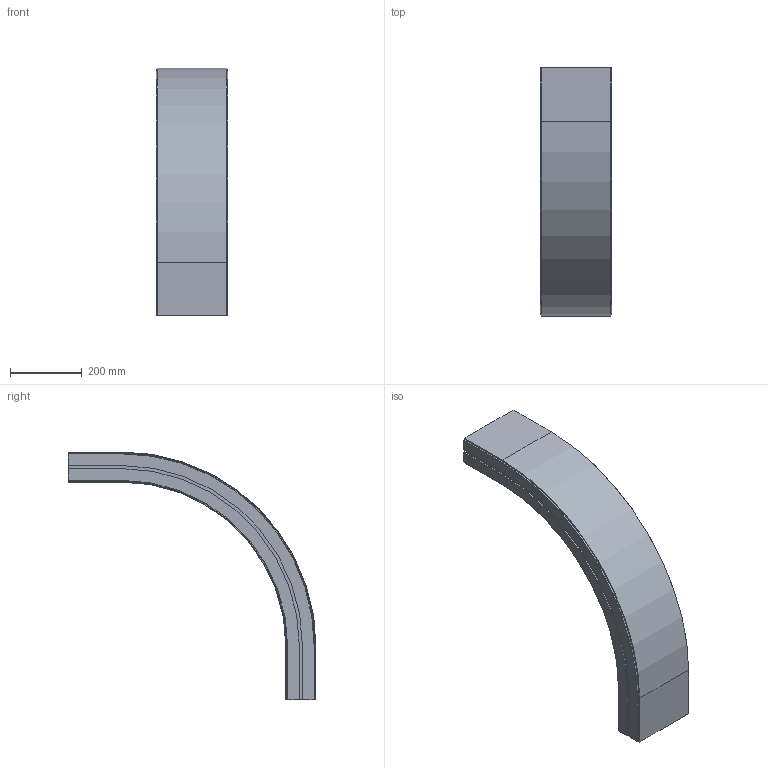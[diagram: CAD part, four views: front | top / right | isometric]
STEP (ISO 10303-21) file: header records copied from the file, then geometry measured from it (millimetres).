
FILE_DESCRIPTION (( 'STEP AP214' ), '1' );
FILE_NAME ('CS SL Verticaalbocht.200 90°.STEP', '2017-02-08T07:37:43', ( '' ), ( '' ), 'SwSTEP 2.0', 'SolidWorks 2016', '' );
FILE_SCHEMA (( 'AUTOMOTIVE_DESIGN' ));
Length unit declared in the file: millimetre
Products named in the file (1): CS SL Verticaalbocht.200 90°
Bounding box: 200 x 692 x 692 mm (x, y, z)
Volume: 17762139.3 mm3; surface area: 764244 mm2
Topology: 1 solids, 1 shells, 98 faces, 272 edges, 176 vertices
Faces by surface type: plane 72, cylinder 18, cone 8
Entity records: 3126 total; most frequent: CARTESIAN_POINT 547, ORIENTED_EDGE 544, DIRECTION 514, EDGE_CURVE 272, LINE 228, VECTOR 228, VERTEX_POINT 176, AXIS2_PLACEMENT_3D 143
